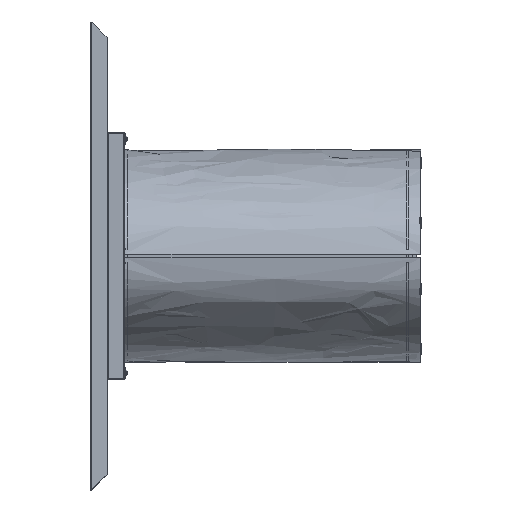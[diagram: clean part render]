
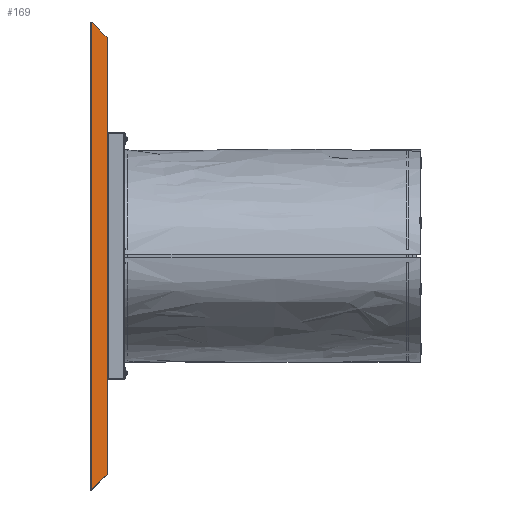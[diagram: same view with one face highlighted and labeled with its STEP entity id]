
A CAD part, left-side view. The second image highlights one B-rep face of the part: STEP entity #169.
In plain terms, the highlighted planar face has unit normal (-0.707, -0.707, 0).
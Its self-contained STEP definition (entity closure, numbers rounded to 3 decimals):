
#169 = ADVANCED_FACE ( 'NONE', ( #9806 ), #23563, .F. ) ;
#941 = DIRECTION ( 'NONE',  ( 0.577, -0.577, -0.577 ) ) ;
#1825 = CARTESIAN_POINT ( 'NONE',  ( -998.536, 33.536, 528.536 ) ) ;
#1873 = DIRECTION ( 'NONE',  ( 0., 0., 1. ) ) ;
#3789 = CARTESIAN_POINT ( 'NONE',  ( -965.293, 0.293, -495.293 ) ) ;
#4409 = VECTOR ( 'NONE', #1873, 1000. ) ;
#4640 = EDGE_LOOP ( 'NONE', ( #24211, #26325, #8249, #7783, #23792, #12036 ) ) ;
#6033 = LINE ( 'NONE', #28051, #18178 ) ;
#6201 = CARTESIAN_POINT ( 'NONE',  ( -999.486, 34.486, 527.585 ) ) ;
#6231 = CARTESIAN_POINT ( 'NONE',  ( -999.486, 34.486, -527.585 ) ) ;
#7071 = CARTESIAN_POINT ( 'NONE',  ( -965.293, 0.293, 495.293 ) ) ;
#7144 = VERTEX_POINT ( 'NONE', #3789 ) ;
#7783 = ORIENTED_EDGE ( 'NONE', *, *, #14825, .T. ) ;
#7863 = CARTESIAN_POINT ( 'NONE',  ( -1000., 35., -530. ) ) ;
#8249 = ORIENTED_EDGE ( 'NONE', *, *, #23080, .F. ) ;
#9806 = FACE_OUTER_BOUND ( 'NONE', #4640, .T. ) ;
#10524 = CARTESIAN_POINT ( 'NONE',  ( -1000., 35., -525. ) ) ;
#11734 =( BOUNDED_CURVE ( )  B_SPLINE_CURVE ( 3, ( #25302, #6201, #15311, #24443 ),
 .UNSPECIFIED., .F., .F. ) 
 B_SPLINE_CURVE_WITH_KNOTS ( ( 4, 4 ),
 ( 2.356, 3.142 ),
 .UNSPECIFIED. ) 
 CURVE ( )  GEOMETRIC_REPRESENTATION_ITEM ( )  RATIONAL_B_SPLINE_CURVE ( ( 1., 0.949, 0.949, 1. ) ) 
 REPRESENTATION_ITEM ( '' )  );
#12036 = ORIENTED_EDGE ( 'NONE', *, *, #16051, .T. ) ;
#12809 = VERTEX_POINT ( 'NONE', #1825 ) ;
#12968 = CARTESIAN_POINT ( 'NONE',  ( -1000., 35., -526.344 ) ) ;
#13944 = VECTOR ( 'NONE', #941, 1000. ) ;
#14280 = DIRECTION ( 'NONE',  ( 0., 0., 1. ) ) ;
#14657 = EDGE_CURVE ( 'NONE', #18493, #7144, #21465, .T. ) ;
#14825 = EDGE_CURVE ( 'NONE', #12809, #16766, #11734, .T. ) ;
#14905 = CARTESIAN_POINT ( 'NONE',  ( -1000., 35., -525. ) ) ;
#14936 = VECTOR ( 'NONE', #16981, 1000. ) ;
#15311 = CARTESIAN_POINT ( 'NONE',  ( -1000., 35., 526.344 ) ) ;
#16051 = EDGE_CURVE ( 'NONE', #23865, #18493, #18006, .T. ) ;
#16766 = VERTEX_POINT ( 'NONE', #22941 ) ;
#16981 = DIRECTION ( 'NONE',  ( 0.577, -0.577, 0.577 ) ) ;
#17714 = LINE ( 'NONE', #22501, #4409 ) ;
#18006 =( BOUNDED_CURVE ( )  B_SPLINE_CURVE ( 3, ( #14905, #12968, #6231, #26862 ),
 .UNSPECIFIED., .F., .F. ) 
 B_SPLINE_CURVE_WITH_KNOTS ( ( 4, 4 ),
 ( 3.142, 3.927 ),
 .UNSPECIFIED. ) 
 CURVE ( )  GEOMETRIC_REPRESENTATION_ITEM ( )  RATIONAL_B_SPLINE_CURVE ( ( 1., 0.949, 0.949, 1. ) ) 
 REPRESENTATION_ITEM ( '' )  );
#18178 = VECTOR ( 'NONE', #23287, 1000. ) ;
#18493 = VERTEX_POINT ( 'NONE', #24169 ) ;
#19028 = AXIS2_PLACEMENT_3D ( 'NONE', #7863, #19367, #14280 ) ;
#19367 = DIRECTION ( 'NONE',  ( 0.707, 0.707, 0. ) ) ;
#21152 = EDGE_CURVE ( 'NONE', #23865, #16766, #6033, .T. ) ;
#21406 = CARTESIAN_POINT ( 'NONE',  ( -646.667, -318.333, 176.667 ) ) ;
#21465 = LINE ( 'NONE', #26405, #14936 ) ;
#22501 = CARTESIAN_POINT ( 'NONE',  ( -965.293, 0.293, 495. ) ) ;
#22848 = EDGE_CURVE ( 'NONE', #7144, #28148, #17714, .T. ) ;
#22941 = CARTESIAN_POINT ( 'NONE',  ( -1000., 35., 525. ) ) ;
#23080 = EDGE_CURVE ( 'NONE', #12809, #28148, #28269, .T. ) ;
#23287 = DIRECTION ( 'NONE',  ( 0., 0., 1. ) ) ;
#23563 = PLANE ( 'NONE',  #19028 ) ;
#23792 = ORIENTED_EDGE ( 'NONE', *, *, #21152, .F. ) ;
#23865 = VERTEX_POINT ( 'NONE', #10524 ) ;
#24169 = CARTESIAN_POINT ( 'NONE',  ( -998.536, 33.536, -528.536 ) ) ;
#24211 = ORIENTED_EDGE ( 'NONE', *, *, #14657, .T. ) ;
#24443 = CARTESIAN_POINT ( 'NONE',  ( -1000., 35., 525. ) ) ;
#25302 = CARTESIAN_POINT ( 'NONE',  ( -998.536, 33.536, 528.536 ) ) ;
#26325 = ORIENTED_EDGE ( 'NONE', *, *, #22848, .T. ) ;
#26405 = CARTESIAN_POINT ( 'NONE',  ( -1000., 35., -530. ) ) ;
#26862 = CARTESIAN_POINT ( 'NONE',  ( -998.536, 33.536, -528.536 ) ) ;
#28051 = CARTESIAN_POINT ( 'NONE',  ( -1000., 35., -530. ) ) ;
#28148 = VERTEX_POINT ( 'NONE', #7071 ) ;
#28269 = LINE ( 'NONE', #21406, #13944 ) ;
